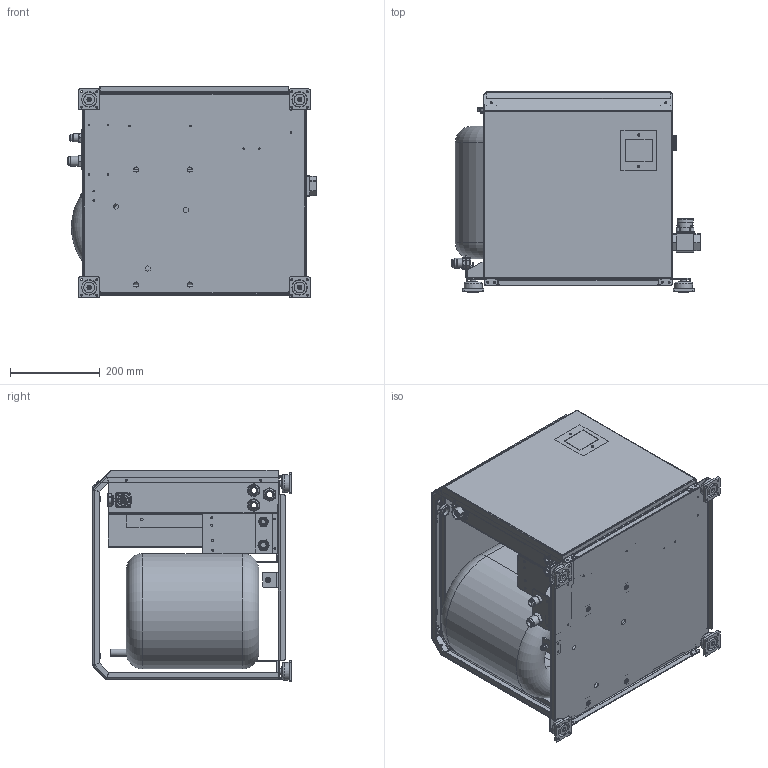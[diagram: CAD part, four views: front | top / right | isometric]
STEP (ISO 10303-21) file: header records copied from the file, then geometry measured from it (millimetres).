
FILE_DESCRIPTION(/* description */ ('VRT12X1-2V-WP - 230VAC WATERPROOF'),/* implementation_level */ '2;1');
FILE_NAME(/* name */ 'VRT-12-X1-003.stp',/* time_stamp */ '2025-01-24T12:32:35+01:00',/* author */ ('CAD 1'),/* organization */ (''),/* preprocessor_version */ 'ST-DEVELOPER v20',/* originating_system */ 'Autodesk Inventor 2024',/* authorisation */ '');
FILE_SCHEMA (('AUTOMOTIVE_DESIGN { 1 0 10303 214 3 1 1 }'));
Products named in the file (51): VRT-12-X1-003; VRT-000000482; VRT-000000100; PIE01-0000002; PIE01-0000002_01; PIE01-0000002_02; PIE01-0000002_04; PIE01-0000002_03; MIN01-0000046; MIN01-0000045; VRT-000000057; CMC02-0000001; RAI01-0000021; RAI01-0000031; ELT01-0000052; ELT01-0000053; MIN01-0000039; MIN01-0000080; VRT-000000480; VRT-000000483; VRT-000000218; VRT-000000477; VRT-000000477_01; VRT-000000478; VRT-000000478_01; MIN01-0000028; VRT-000000481; VRT-05-000022; VRT-000000476; VRT-000000076; VRT-000000106; VRT-000000109; HEX01-0000017; VRT-000000109_01; VRT-000000473; RAI01-0000004; VRT-000000472; RAI01-0000029; VRT-03-000024; VRT-000000479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
Assembly tree (62 placements, depth 5):
  VRT-12-X1-003
    VRT-000000478  x2
      VRT-000000478_01
      MIN01-0000028
    VRT-000000482
    VRT-000000100
    PIE01-0000002  x4
      PIE01-0000002_01
      PIE01-0000002_02
      PIE01-0000002_04
      PIE01-0000002_03
      MIN01-0000046
      MIN01-0000045
    VRT-000000057
      CMC02-0000001
      RAI01-0000021
      RAI01-0000031
      ELT01-0000052
      ELT01-0000053
      MIN01-0000039  x4
      MIN01-0000080  x4
    VRT-000000480
    VRT-000000483
    VRT-000000218
    VRT-000000477
      VRT-000000477_01
    VRT-000000481
    VRT-05-000022
      VRT-000000476
        VRT-000000076
        VRT-000000106
      VRT-000000109
        HEX01-0000017
        VRT-000000109_01
      VRT-000000473
        RAI01-0000004
      VRT-000000472
        RAI01-0000029
    VRT-03-000024
      VRT-000000479
      ELT01-0000006
      ELT01-0000010
        ELT01-0000010_02
        ELT01-0000010_01
          ELT01-0000010_01_01
          ELT01-0000010_01_02
      ELT01-0000035  x2
        ELT01-0000035_02
        ELT01-0000035_01
          ELT01-0000035_01_01
          ELT01-0000035_01_02
Bounding box: 554.75 x 446.5 x 473.5 mm (x, y, z)
Volume: 14309925.8 mm3; surface area: 5190103 mm2
Topology: 84 solids, 86 shells, 3023 faces, 7517 edges, 4781 vertices
Faces by surface type: plane 1595, cylinder 928, bspline 335, cone 108, torus 57
Full cylindrical faces by diameter (mm): 2.459 x4, 3 x4, 3.2 x10, 3.242 x62, 4 x4, 4.2 x6, 4.3 x5, 4.5 x54, 4.8 x8, 5 x11, 6 x10, 6.2 x1, 6.5 x9, 6.647 x4, 7 x4, 8 x1, 8.8 x2, 9 x4, 9.2 x4, 9.35 x1, 9.5 x1, 10 x9, 10.7 x1, 10.9 x4, 12 x10, 12.2 x1, 12.5 x2, 12.7 x4, 13 x1, 14.5 x1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
Entity records: 131055 total; most frequent: CARTESIAN_POINT 72922, ORIENTED_EDGE 11786, DIRECTION 11178, EDGE_CURVE 5893, VERTEX_POINT 3770, AXIS2_PLACEMENT_3D 3770, LINE 3638, VECTOR 3638
